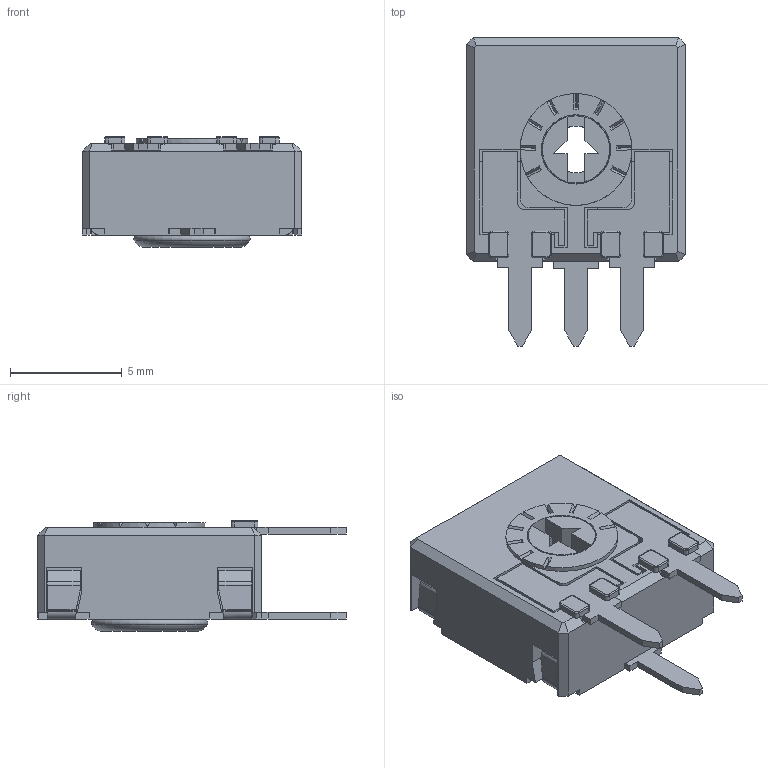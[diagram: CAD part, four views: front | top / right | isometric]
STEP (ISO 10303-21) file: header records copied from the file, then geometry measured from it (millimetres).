
FILE_DESCRIPTION(/* description */ (''),/* implementation_level */ '2;1');
FILE_NAME(/* name */ '\\SERVERACP\intercambio\Ignacio Santa Cecilia\Nueva WEB 2025\CA9 - CE9\CA9PHS3,8.stp',/* time_stamp */ '2025-06-03T15:33:11+02:00',/* author */ ('CEM'),/* organization */ (''),/* preprocessor_version */ 'ST-DEVELOPER v17',/* originating_system */ 'Autodesk Inventor 2018',/* authorisation */ '');
FILE_SCHEMA (('AUTOMOTIVE_DESIGN { 1 0 10303 214 3 1 1 }'));
Length unit declared in the file: millimetre
Products named in the file (1): CA9PHS3,8
Bounding box: 9.8 x 13.8 x 4.95 mm (x, y, z)
Volume: 245.2 mm3; surface area: 804.4 mm2
Topology: 2 solids, 2 shells, 502 faces, 1445 edges, 919 vertices
Faces by surface type: plane 401, cylinder 66, torus 19, cone 16
Full cylindrical faces by diameter (mm): 3 x1, 3.1 x1, 4 x1, 4.8 x1, 5 x1
Entity records: 16466 total; most frequent: CARTESIAN_POINT 2919, ORIENTED_EDGE 2890, DIRECTION 2679, EDGE_CURVE 1445, LINE 1165, VECTOR 1165, VERTEX_POINT 919, AXIS2_PLACEMENT_3D 757
